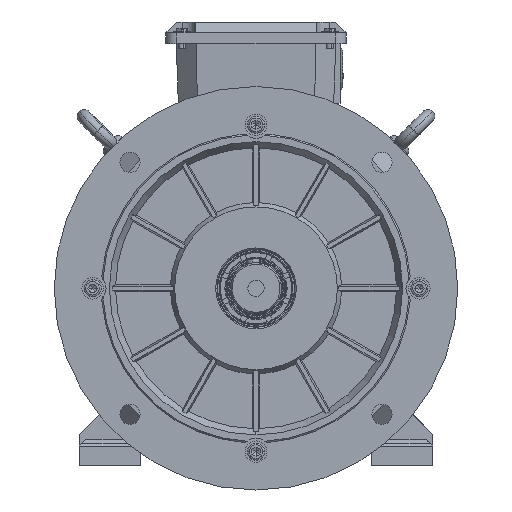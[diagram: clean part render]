
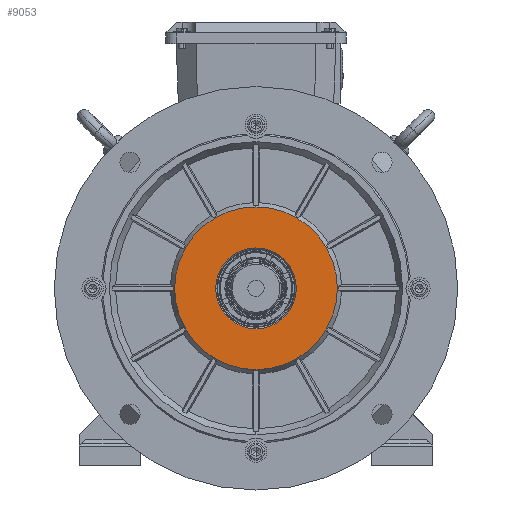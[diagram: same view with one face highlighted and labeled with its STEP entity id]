
A CAD part, left-side view. The second image highlights one B-rep face of the part: STEP entity #9053.
In plain terms, the highlighted planar face has unit normal (-1, 0, 0).
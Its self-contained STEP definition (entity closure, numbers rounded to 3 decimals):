
#4637 = CARTESIAN_POINT ( 'NONE',  ( 7.5, 0., -60.5 ) ) ;
#4638 = CARTESIAN_POINT ( 'NONE',  ( 7.5, 0., 60.5 ) ) ;
#4639 = DIRECTION ( 'NONE',  ( 0., 0., 1. ) ) ;
#4640 = DIRECTION ( 'NONE',  ( -1., 0., 0. ) ) ;
#4641 = CARTESIAN_POINT ( 'NONE',  ( 7.5, 0., 0. ) ) ;
#4642 = AXIS2_PLACEMENT_3D ( 'NONE', #4641, #4640, #4639 ) ;
#4643 = CIRCLE ( 'NONE', #4642, 60.5 ) ;
#4844 = CARTESIAN_POINT ( 'NONE',  ( 7.5, 0., 30. ) ) ;
#4845 = CARTESIAN_POINT ( 'NONE',  ( 7.5, 0., -30. ) ) ;
#5068 = CARTESIAN_POINT ( 'NONE',  ( 7.5, 0., 0. ) ) ;
#5121 = DIRECTION ( 'NONE',  ( 0., 0., 1. ) ) ;
#5122 = DIRECTION ( 'NONE',  ( -1., 0., 0. ) ) ;
#5123 = AXIS2_PLACEMENT_3D ( 'NONE', #5068, #5122, #5121 ) ;
#5124 = CIRCLE ( 'NONE', #5123, 30. ) ;
#9051 = EDGE_CURVE ( 'NONE', #79317, #79315, #84367, .T. ) ;
#9053 = ADVANCED_FACE ( 'NONE', ( #85940, #85939 ), #85938, .F. ) ;
#9054 = EDGE_LOOP ( 'NONE', ( #9165, #9167 ) ) ;
#9091 = EDGE_CURVE ( 'NONE', #79145, #79144, #86098, .T. ) ;
#9092 = ORIENTED_EDGE ( 'NONE', *, *, #79140, .T. ) ;
#9165 = ORIENTED_EDGE ( 'NONE', *, *, #9051, .F. ) ;
#9167 = ORIENTED_EDGE ( 'NONE', *, *, #79525, .F. ) ;
#9169 = EDGE_LOOP ( 'NONE', ( #9171, #9092 ) ) ;
#9171 = ORIENTED_EDGE ( 'NONE', *, *, #9091, .T. ) ;
#79140 = EDGE_CURVE ( 'NONE', #79144, #79145, #4643, .T. ) ;
#79144 = VERTEX_POINT ( 'NONE', #4638 ) ;
#79145 = VERTEX_POINT ( 'NONE', #4637 ) ;
#79315 = VERTEX_POINT ( 'NONE', #4845 ) ;
#79317 = VERTEX_POINT ( 'NONE', #4844 ) ;
#79525 = EDGE_CURVE ( 'NONE', #79315, #79317, #5124, .T. ) ;
#84361 = CARTESIAN_POINT ( 'NONE',  ( 7.5, 0., 0. ) ) ;
#84363 = AXIS2_PLACEMENT_3D ( 'NONE', #84361, #84858, #85346 ) ;
#84367 = CIRCLE ( 'NONE', #84363, 30. ) ;
#84858 = DIRECTION ( 'NONE',  ( -1., 0., 0. ) ) ;
#85346 = DIRECTION ( 'NONE',  ( 0., 0., 1. ) ) ;
#85930 = DIRECTION ( 'NONE',  ( 0., 0., -1. ) ) ;
#85932 = DIRECTION ( 'NONE',  ( 1., 0., 0. ) ) ;
#85934 = CARTESIAN_POINT ( 'NONE',  ( 7.5, 60.5, 0. ) ) ;
#85936 = AXIS2_PLACEMENT_3D ( 'NONE', #85934, #85932, #85930 ) ;
#85938 = PLANE ( 'NONE',  #85936 ) ;
#85939 = FACE_OUTER_BOUND ( 'NONE', #9169, .T. ) ;
#85940 = FACE_BOUND ( 'NONE', #9054, .T. ) ;
#86013 = CARTESIAN_POINT ( 'NONE',  ( 7.5, 0., 0. ) ) ;
#86092 = DIRECTION ( 'NONE',  ( 0., 0., 1. ) ) ;
#86095 = DIRECTION ( 'NONE',  ( -1., 0., 0. ) ) ;
#86097 = AXIS2_PLACEMENT_3D ( 'NONE', #86013, #86095, #86092 ) ;
#86098 = CIRCLE ( 'NONE', #86097, 60.5 ) ;
